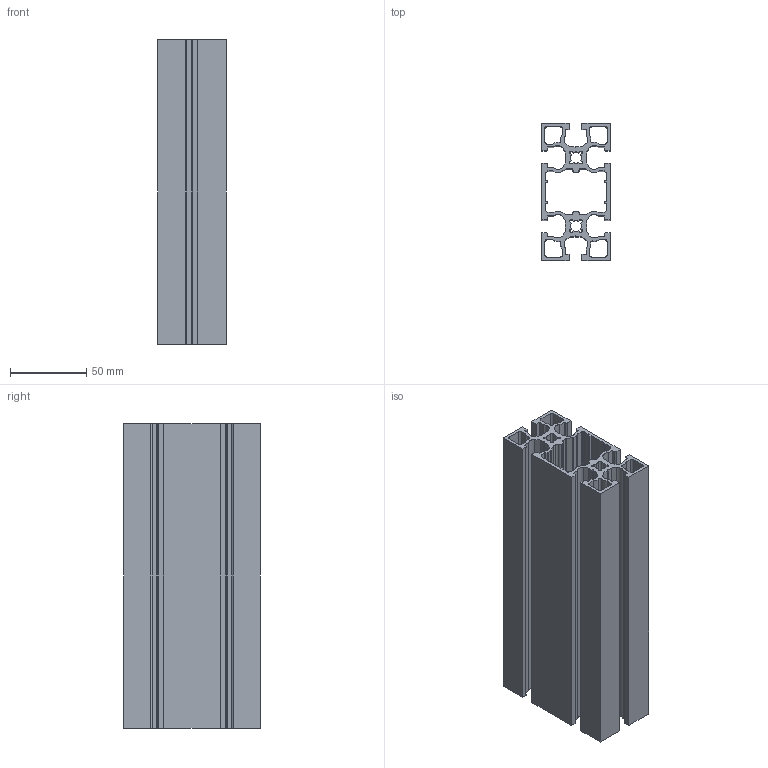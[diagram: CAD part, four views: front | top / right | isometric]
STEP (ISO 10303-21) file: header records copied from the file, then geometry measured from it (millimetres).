
FILE_DESCRIPTION(/* description */ ('Profile 45.90'),/* implementation_level */ '2;1');
FILE_NAME(/* name */ 'C:\Users\apromt\Desktop\tekeningen\stp\PA1100070001.stp',/* time_stamp */ '2022-01-19T08:28:59+01:00',/* author */ ('rens'),/* organization */ (''),/* preprocessor_version */ 'ST-DEVELOPER v18.1',/* originating_system */ 'Autodesk Inventor 2022',/* authorisation */ '');
FILE_SCHEMA (('AUTOMOTIVE_DESIGN { 1 0 10303 214 3 1 1 }'));
Length unit declared in the file: millimetre
Products named in the file (1): PA1100070001-01
Bounding box: 45 x 90 x 200 mm (x, y, z)
Volume: 240622.3 mm3; surface area: 181544.2 mm2
Topology: 1 solids, 1 shells, 278 faces, 828 edges, 552 vertices
Faces by surface type: plane 172, cylinder 106
Entity records: 9702 total; most frequent: CARTESIAN_POINT 1659, ORIENTED_EDGE 1656, DIRECTION 1598, EDGE_CURVE 828, LINE 616, VECTOR 616, VERTEX_POINT 552, AXIS2_PLACEMENT_3D 491
